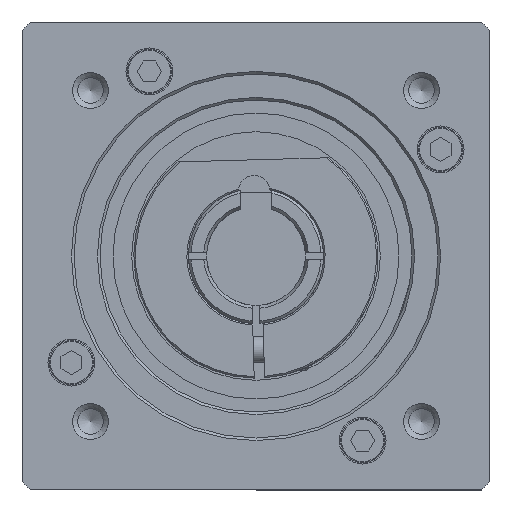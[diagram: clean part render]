
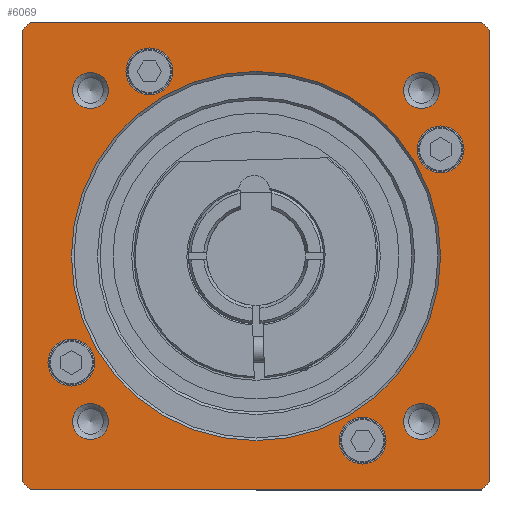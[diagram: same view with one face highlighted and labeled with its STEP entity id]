
A CAD part, front view. The second image highlights one B-rep face of the part: STEP entity #6069.
In plain terms, the highlighted planar face has unit normal (0, -1, 0).
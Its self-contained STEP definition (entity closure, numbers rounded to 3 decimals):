
#5891=CARTESIAN_POINT('',(-31.82,-25.,35.278));
#5892=VERTEX_POINT('',#5891);
#5893=CARTESIAN_POINT('',(-31.82,-25.,31.82));
#5894=DIRECTION('',(0.0,-1.0,0.0));
#5895=DIRECTION('',(0.0,0.0,-1.0));
#5896=AXIS2_PLACEMENT_3D('',#5893,#5894,#5895);
#5897=CIRCLE('',#5896,3.459);
#5898=EDGE_CURVE('',#5892,#5892,#5897,.T.);
#5903=CARTESIAN_POINT('',(48.75,-25.,0.));
#5904=DIRECTION('',(0.0,-1.0,0.0));
#5905=DIRECTION('',(0.0,0.0,-1.0));
#5906=AXIS2_PLACEMENT_3D('',#5903,#5904,#5905);
#5907=PLANE('',#5906);
#5908=CARTESIAN_POINT('',(-43.373,-25.,-45.));
#5909=VERTEX_POINT('',#5908);
#5910=CARTESIAN_POINT('',(43.373,-25.,-45.));
#5911=VERTEX_POINT('',#5910);
#5912=CARTESIAN_POINT('',(-43.373,-25.,-45.));
#5913=DIRECTION('',(1.0,0.0,0.0));
#5914=VECTOR('',#5913,86.747);
#5915=LINE('',#5912,#5914);
#5916=EDGE_CURVE('',#5909,#5911,#5915,.T.);
#5917=ORIENTED_EDGE('',*,*,#5916,.T.);
#5918=CARTESIAN_POINT('',(45.,-25.,-43.373));
#5919=VERTEX_POINT('',#5918);
#5920=CARTESIAN_POINT('',(0.,-25.,0.));
#5921=DIRECTION('',(0.0,-1.0,0.0));
#5922=DIRECTION('',(1.0,0.0,0.0));
#5923=AXIS2_PLACEMENT_3D('',#5920,#5921,#5922);
#5924=CIRCLE('',#5923,62.5);
#5925=EDGE_CURVE('',#5911,#5919,#5924,.T.);
#5926=ORIENTED_EDGE('',*,*,#5925,.T.);
#5927=CARTESIAN_POINT('',(45.,-25.,43.373));
#5928=VERTEX_POINT('',#5927);
#5929=CARTESIAN_POINT('',(45.,-25.,-43.373));
#5930=DIRECTION('',(0.0,0.0,1.0));
#5931=VECTOR('',#5930,86.747);
#5932=LINE('',#5929,#5931);
#5933=EDGE_CURVE('',#5919,#5928,#5932,.T.);
#5934=ORIENTED_EDGE('',*,*,#5933,.T.);
#5935=CARTESIAN_POINT('',(43.373,-25.,45.));
#5936=VERTEX_POINT('',#5935);
#5937=CARTESIAN_POINT('',(0.,-25.,0.));
#5938=DIRECTION('',(0.0,-1.0,0.0));
#5939=DIRECTION('',(1.0,0.0,0.0));
#5940=AXIS2_PLACEMENT_3D('',#5937,#5938,#5939);
#5941=CIRCLE('',#5940,62.5);
#5942=EDGE_CURVE('',#5928,#5936,#5941,.T.);
#5943=ORIENTED_EDGE('',*,*,#5942,.T.);
#5944=CARTESIAN_POINT('',(-43.373,-25.,45.0));
#5945=VERTEX_POINT('',#5944);
#5946=CARTESIAN_POINT('',(43.373,-25.,45.));
#5947=DIRECTION('',(-1.0,0.0,0.0));
#5948=VECTOR('',#5947,86.747);
#5949=LINE('',#5946,#5948);
#5950=EDGE_CURVE('',#5936,#5945,#5949,.T.);
#5951=ORIENTED_EDGE('',*,*,#5950,.T.);
#5952=CARTESIAN_POINT('',(-45.,-25.,43.373));
#5953=VERTEX_POINT('',#5952);
#5954=CARTESIAN_POINT('',(0.,-25.,0.));
#5955=DIRECTION('',(0.0,-1.0,0.0));
#5956=DIRECTION('',(1.0,0.0,0.0));
#5957=AXIS2_PLACEMENT_3D('',#5954,#5955,#5956);
#5958=CIRCLE('',#5957,62.5);
#5959=EDGE_CURVE('',#5945,#5953,#5958,.T.);
#5960=ORIENTED_EDGE('',*,*,#5959,.T.);
#5961=CARTESIAN_POINT('',(-45.,-25.,-43.373));
#5962=VERTEX_POINT('',#5961);
#5963=CARTESIAN_POINT('',(-45.,-25.,43.373));
#5964=DIRECTION('',(0.0,0.0,-1.0));
#5965=VECTOR('',#5964,86.747);
#5966=LINE('',#5963,#5965);
#5967=EDGE_CURVE('',#5953,#5962,#5966,.T.);
#5968=ORIENTED_EDGE('',*,*,#5967,.T.);
#5969=CARTESIAN_POINT('',(0.,-25.,0.));
#5970=DIRECTION('',(0.0,-1.0,0.0));
#5971=DIRECTION('',(1.0,0.0,0.0));
#5972=AXIS2_PLACEMENT_3D('',#5969,#5970,#5971);
#5973=CIRCLE('',#5972,62.5);
#5974=EDGE_CURVE('',#5962,#5909,#5973,.T.);
#5975=ORIENTED_EDGE('',*,*,#5974,.T.);
#5976=EDGE_LOOP('',(#5917,#5926,#5934,#5943,#5951,#5960,#5968,#5975));
#5977=FACE_OUTER_BOUND('',#5976,.T.);
#5978=CARTESIAN_POINT('',(-35.278,-25.,-31.82));
#5979=VERTEX_POINT('',#5978);
#5980=CARTESIAN_POINT('',(-31.82,-25.,-31.82));
#5981=DIRECTION('',(0.0,-1.0,0.0));
#5982=DIRECTION('',(1.0,0.0,0.0));
#5983=AXIS2_PLACEMENT_3D('',#5980,#5981,#5982);
#5984=CIRCLE('',#5983,3.459);
#5985=EDGE_CURVE('',#5979,#5979,#5984,.T.);
#5986=ORIENTED_EDGE('',*,*,#5985,.F.);
#5987=EDGE_LOOP('',(#5986));
#5988=FACE_BOUND('',#5987,.T.);
#5989=CARTESIAN_POINT('',(35.278,-25.,31.82));
#5990=VERTEX_POINT('',#5989);
#5991=CARTESIAN_POINT('',(31.82,-25.,31.82));
#5992=DIRECTION('',(0.0,-1.0,0.0));
#5993=DIRECTION('',(-1.0,0.0,0.0));
#5994=AXIS2_PLACEMENT_3D('',#5991,#5992,#5993);
#5995=CIRCLE('',#5994,3.459);
#5996=EDGE_CURVE('',#5990,#5990,#5995,.T.);
#5997=ORIENTED_EDGE('',*,*,#5996,.F.);
#5998=EDGE_LOOP('',(#5997));
#5999=FACE_BOUND('',#5998,.T.);
#6000=CARTESIAN_POINT('',(40.007,-25.,20.5));
#6001=VERTEX_POINT('',#6000);
#6002=CARTESIAN_POINT('',(35.507,-25.,20.5));
#6003=DIRECTION('',(0.0,1.0,0.0));
#6004=DIRECTION('',(1.0,0.0,0.0));
#6005=AXIS2_PLACEMENT_3D('',#6002,#6003,#6004);
#6006=CIRCLE('',#6005,4.5);
#6007=EDGE_CURVE('',#6001,#6001,#6006,.T.);
#6008=ORIENTED_EDGE('',*,*,#6007,.T.);
#6009=EDGE_LOOP('',(#6008));
#6010=FACE_BOUND('',#6009,.T.);
#6011=CARTESIAN_POINT('',(35.5,-25.,0.));
#6012=VERTEX_POINT('',#6011);
#6013=CARTESIAN_POINT('',(0.,-25.,0.));
#6014=DIRECTION('',(0.0,-1.0,0.0));
#6015=DIRECTION('',(-1.0,0.0,0.0));
#6016=AXIS2_PLACEMENT_3D('',#6013,#6014,#6015);
#6017=CIRCLE('',#6016,35.5);
#6018=EDGE_CURVE('',#6012,#6012,#6017,.T.);
#6019=ORIENTED_EDGE('',*,*,#6018,.F.);
#6020=EDGE_LOOP('',(#6019));
#6021=FACE_BOUND('',#6020,.T.);
#6022=CARTESIAN_POINT('',(20.5,-25.,-40.007));
#6023=VERTEX_POINT('',#6022);
#6024=CARTESIAN_POINT('',(20.5,-25.,-35.507));
#6025=DIRECTION('',(0.0,1.0,0.0));
#6026=DIRECTION('',(0.0,0.0,-1.0));
#6027=AXIS2_PLACEMENT_3D('',#6024,#6025,#6026);
#6028=CIRCLE('',#6027,4.5);
#6029=EDGE_CURVE('',#6023,#6023,#6028,.T.);
#6030=ORIENTED_EDGE('',*,*,#6029,.T.);
#6031=EDGE_LOOP('',(#6030));
#6032=FACE_BOUND('',#6031,.T.);
#6033=CARTESIAN_POINT('',(-40.007,-25.,-20.5));
#6034=VERTEX_POINT('',#6033);
#6035=CARTESIAN_POINT('',(-35.507,-25.,-20.5));
#6036=DIRECTION('',(0.0,1.0,0.0));
#6037=DIRECTION('',(-1.0,0.0,0.0));
#6038=AXIS2_PLACEMENT_3D('',#6035,#6036,#6037);
#6039=CIRCLE('',#6038,4.5);
#6040=EDGE_CURVE('',#6034,#6034,#6039,.T.);
#6041=ORIENTED_EDGE('',*,*,#6040,.T.);
#6042=EDGE_LOOP('',(#6041));
#6043=FACE_BOUND('',#6042,.T.);
#6044=CARTESIAN_POINT('',(-20.5,-25.,40.007));
#6045=VERTEX_POINT('',#6044);
#6046=CARTESIAN_POINT('',(-20.5,-25.,35.507));
#6047=DIRECTION('',(0.0,1.0,0.0));
#6048=DIRECTION('',(0.0,0.0,1.0));
#6049=AXIS2_PLACEMENT_3D('',#6046,#6047,#6048);
#6050=CIRCLE('',#6049,4.5);
#6051=EDGE_CURVE('',#6045,#6045,#6050,.T.);
#6052=ORIENTED_EDGE('',*,*,#6051,.T.);
#6053=EDGE_LOOP('',(#6052));
#6054=FACE_BOUND('',#6053,.T.);
#6055=CARTESIAN_POINT('',(31.82,-25.,-35.278));
#6056=VERTEX_POINT('',#6055);
#6057=CARTESIAN_POINT('',(31.82,-25.,-31.82));
#6058=DIRECTION('',(0.0,-1.0,0.0));
#6059=DIRECTION('',(0.0,0.0,1.0));
#6060=AXIS2_PLACEMENT_3D('',#6057,#6058,#6059);
#6061=CIRCLE('',#6060,3.459);
#6062=EDGE_CURVE('',#6056,#6056,#6061,.T.);
#6063=ORIENTED_EDGE('',*,*,#6062,.F.);
#6064=EDGE_LOOP('',(#6063));
#6065=FACE_BOUND('',#6064,.T.);
#6066=ORIENTED_EDGE('',*,*,#5898,.F.);
#6067=EDGE_LOOP('',(#6066));
#6068=FACE_BOUND('',#6067,.T.);
#6069=ADVANCED_FACE('',(#5977,#5988,#5999,#6010,#6021,#6032,#6043,#6054,#6065,#6068),#5907,.T.);
